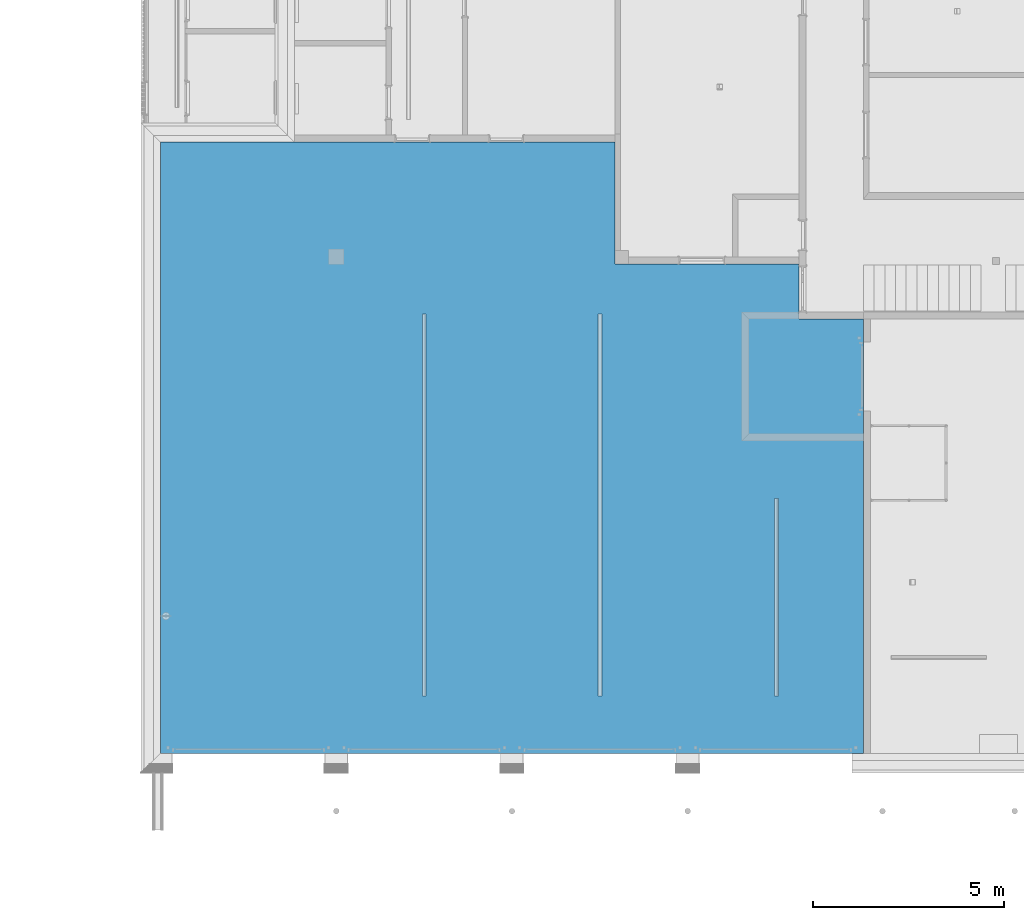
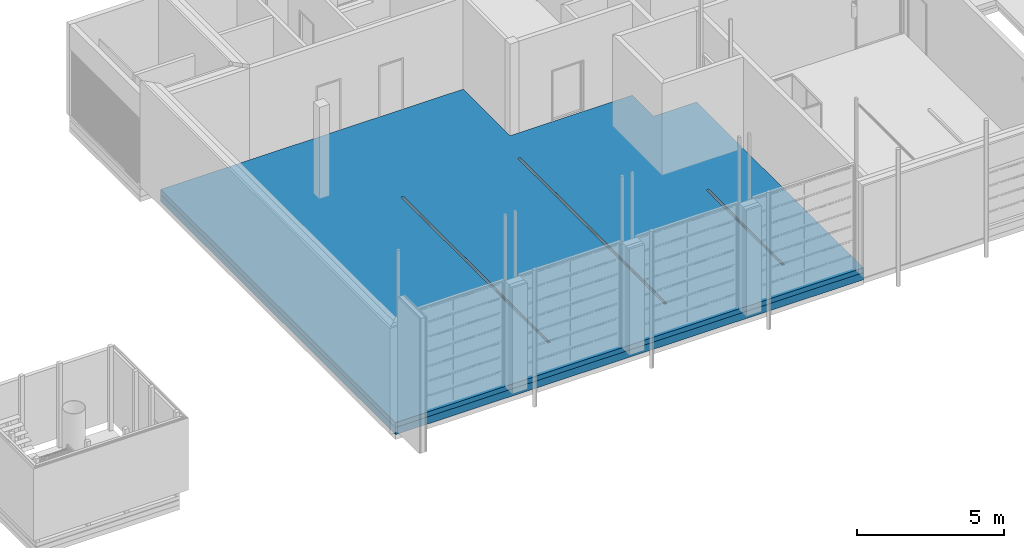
# One storey, part 49 of 112: 2 building element parts, 1 element without a shape of its own.
"""IFC2X3 building model written with IfcOpenShell, lengths in millimetres."""

from ifc_helpers import new_model, entity, si_unit, converted_unit, derived_unit, money_unit, direction, frame, origin_with_axes, place, context, subcontext, project, spatial, polyline, outline, extrude, boolean, faceted_brep, material, type_object, element, aggregate, save


model = new_model("IFC2X3")

# Units and contexts
model_context = context("Model", 3, precision=0.01, world=origin_with_axes(), true_north=direction((0.0, 1.0)))
body_context = subcontext(model_context, "Body", "Model", "MODEL_VIEW")
ifc_project = project(units=[si_unit("LENGTHUNIT", "METRE", prefix="MILLI"), si_unit("AREAUNIT", "SQUARE_METRE"), si_unit("VOLUMEUNIT", "CUBIC_METRE"), converted_unit("PLANEANGLEUNIT", "DEGREE", entity("IfcPlaneAngleMeasure", 0.0174532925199), si_unit("PLANEANGLEUNIT", "RADIAN"), dimensions=[0, 0, 0, 0, 0, 0, 0]), si_unit("SOLIDANGLEUNIT", "STERADIAN"), money_unit("EUR"), converted_unit("TIMEUNIT", "Year", entity("IfcTimeMeasure", 31556926.0), si_unit("TIMEUNIT", "SECOND"), dimensions=[0, 0, 1, 0, 0, 0, 0]), si_unit("MASSUNIT", "GRAM", prefix="KILO"), si_unit("THERMODYNAMICTEMPERATUREUNIT", "DEGREE_CELSIUS"), si_unit("LUMINOUSINTENSITYUNIT", "LUMEN"), si_unit("ENERGYUNIT", "JOULE", prefix="MEGA"), derived_unit("THERMALCONDUCTANCEUNIT", [(si_unit("POWERUNIT", "WATT"), 1), (si_unit("LENGTHUNIT", "METRE"), -1), (si_unit("THERMODYNAMICTEMPERATUREUNIT", "KELVIN"), -1)]), derived_unit("SPECIFICHEATCAPACITYUNIT", [(si_unit("ENERGYUNIT", "JOULE"), 1), (si_unit("MASSUNIT", "GRAM", prefix="KILO"), -1), (si_unit("THERMODYNAMICTEMPERATUREUNIT", "KELVIN"), -1)]), derived_unit("MASSDENSITYUNIT", [(si_unit("MASSUNIT", "GRAM", prefix="KILO"), 1), (si_unit("VOLUMEUNIT", "CUBIC_METRE"), -1)])], contexts=[model_context])

# Site, building, storey
site_placement = place(None, origin_with_axes())
site = spatial("IfcSite", under=ifc_project, at=site_placement, Name="Politse- ja Piirivalveameti ning Päästeameti ühishoone", CompositionType="ELEMENT")
building_placement = place(site_placement, origin_with_axes())
building = spatial("IfcBuilding", under=site, at=building_placement, Name="Politse- ja Piirivalveameti ning Päästeameti ühishoone", CompositionType="ELEMENT")
storey_placement = place(building_placement, origin_with_axes())
storey = spatial("IfcBuildingStorey", under=building, at=storey_placement, Name="Esimene korrus", CompositionType="ELEMENT", Elevation=0.0)

# Slab, building element parts
slab_type = type_object("IfcSlabType", Name="PP-01_Põrand pinnasel - garaaz 700", PredefinedType="NOTDEFINED")
slab_placement = place(storey_placement, origin_with_axes())
slab = element("IfcSlab", 1, at=slab_placement, inside=storey, type_object=slab_type, Name="PP-01", PredefinedType="NOTDEFINED")
ifc_material_1 = material(Name="SOJ-02_Soojustus - Fiiber Kõva")
building_element_part_1_placement = place(slab_placement, origin_with_axes())
building_element_part_1 = element("IfcBuildingElementPart", 2, at=building_element_part_1_placement, material=ifc_material_1, Name="SOJ-02_Soojustus - Fiiber Kõva", context=body_context, shape_type="CSG", body=[
    boolean("DIFFERENCE", boolean("DIFFERENCE", boolean("DIFFERENCE", extrude(outline(polyline([(0.0, 0.0), (18400.0881112, 0.0), (18400.0881112, 11370.0198611), (16710.2858198, 11370.0198611), (16710.2858198, 12810.0198611), (11900.1981808, 12810.0198611), (11900.1982011, 16000.0244522), (0.0, 16000.0244522), (0.0, 0.0)])), frame((0.0, 0.0, -500.0), z_axis=(0.0, 0.0, 1.0), x_axis=(1.0, 0.0, 0.0)), (0.0, 0.0, 1.0), 300.0), faceted_brep([(6854.91421387, 1500.0, 0.0), (6954.91421387, 1500.0, 0.0), (6954.91415426, 11500.0, 0.0), (6854.91421387, 11500.0, 0.0), (6854.91421387, 1500.0, -100.0), (6954.91421387, 1500.0, -100.0), (6954.91415426, 11500.0, -100.0), (6854.91421387, 11500.0, -100.0), (6859.91421387, 11495.0, -100.0), (6859.91421387, 6501.0, -100.0), (6859.91421387, 6499.0, -100.0), (6859.91415426, 1504.9999404, -100.0), (6880.16421387, 1505.0, -100.0), (6882.16418481, 1505.0, -100.0), (6903.91421387, 1505.0, -100.0), (6905.91421387, 1505.0, -100.0), (6927.66421387, 1505.0, -100.0), (6929.66421387, 1505.0, -100.0), (6949.91421387, 1504.9999404, -100.0), (6949.91421387, 6499.0, -100.0), (6949.91421387, 6501.0, -100.0), (6949.91421387, 11495.0, -100.0), (6929.66421387, 11495.0, -100.0), (6929.66421387, 6501.0, -100.0), (6929.66421387, 6499.0, -100.0), (6927.66421387, 6499.0, -100.0), (6927.66421387, 6501.0, -100.0), (6927.66421387, 11495.0, -100.0), (6905.91421387, 11495.0, -100.0), (6905.91421387, 6501.0, -100.0), (6905.91421387, 6499.0, -100.0), (6903.91421387, 6499.0, -100.0), (6903.91421387, 6501.0, -100.0), (6903.91421387, 11495.0, -100.0), (6882.16421387, 11495.0, -100.0), (6882.16421387, 6501.0, -100.0), (6882.16421387, 6499.0, -100.0), (6880.16421387, 6499.0, -100.0), (6880.16421387, 6501.0, -100.0), (6880.16421387, 11495.0, -100.0), (6859.91421387, 11495.0, -56.35), (6859.91421387, 6501.0, -56.35), (6859.91421387, 6499.0, -56.35), (6859.91415426, 1504.9999404, -56.35), (6880.16421387, 1505.0, -56.35), (6882.16418481, 1505.0, -56.35), (6903.91421387, 1505.0, -56.35), (6905.91421387, 1505.0, -56.35), (6927.66421387, 1505.0, -56.35), (6929.66421387, 1505.0, -56.35), (6949.91421387, 1504.9999404, -56.35), (6949.91421387, 6499.0, -56.35), (6949.91421387, 6501.0, -56.35), (6949.91421387, 11495.0, -56.35), (6929.66421387, 11495.0, -56.35), (6929.66421387, 6501.0, -56.35), (6929.66421387, 6499.0, -56.35), (6927.66421387, 6499.0, -56.35), (6927.66421387, 6501.0, -56.35), (6927.66421387, 11495.0, -56.35), (6905.91421387, 11495.0, -56.35), (6905.91421387, 6501.0, -56.35), (6905.91421387, 6499.0, -56.35), (6903.91421387, 6499.0, -56.35), (6903.91421387, 6501.0, -56.35), (6903.91421387, 11495.0, -56.35), (6882.16421387, 11495.0, -56.35), (6882.16421387, 6501.0, -56.35), (6882.16421387, 6499.0, -56.35), (6880.16421387, 6499.0, -56.35), (6880.16421387, 6501.0, -56.35), (6880.16421387, 11495.0, -56.35)], [[[0, 1, 2, 3]], [[1, 0, 4, 5]], [[2, 1, 5, 6]], [[3, 2, 6, 7]], [[0, 3, 7, 4]], [[7, 8, 9, 10, 11, 12, 13, 14, 15, 16, 17, 18, 19, 20, 21, 6, 5, 4]], [[8, 7, 6, 21, 22, 23, 24, 17, 16, 25, 26, 27, 28, 29, 30, 15, 14, 31, 32, 33, 34, 35, 36, 13, 12, 37, 38, 39]], [[8, 40, 41, 9]], [[10, 9, 38, 37]], [[10, 42, 43, 11]], [[11, 43, 44, 12]], [[13, 45, 46, 14]], [[15, 47, 48, 16]], [[17, 49, 50, 18]], [[18, 50, 51, 19]], [[24, 23, 20, 19]], [[20, 52, 53, 21]], [[54, 22, 21, 53]], [[22, 54, 55, 23]], [[49, 17, 24, 56]], [[16, 48, 57, 25]], [[25, 30, 29, 26]], [[26, 58, 59, 27]], [[60, 28, 27, 59]], [[28, 60, 61, 29]], [[47, 15, 30, 62]], [[14, 46, 63, 31]], [[36, 35, 32, 31]], [[32, 64, 65, 33]], [[66, 34, 33, 65]], [[34, 66, 67, 35]], [[45, 13, 36, 68]], [[69, 37, 12, 44]], [[38, 70, 71, 39]], [[40, 8, 39, 71]], [[41, 40, 71, 70]], [[9, 41, 70, 38]], [[42, 10, 37, 69]], [[43, 42, 69, 44]], [[46, 45, 68, 63]], [[48, 47, 62, 57]], [[50, 49, 56, 51]], [[56, 24, 19, 51]], [[23, 55, 52, 20]], [[55, 54, 53, 52]], [[62, 30, 25, 57]], [[29, 61, 58, 26]], [[61, 60, 59, 58]], [[68, 36, 31, 63]], [[35, 67, 64, 32]], [[64, 67, 66, 65]]])), faceted_brep([(11453.4204853, 1502.5, 0.0), (11553.4204853, 1502.5, 0.0), (11553.4204257, 11502.5, 0.0), (11453.4204853, 11502.5, 0.0), (11453.4204853, 1502.5, -100.0), (11553.4204853, 1502.5, -100.0), (11553.4204257, 11502.5, -100.0), (11453.4204853, 11502.5, -100.0), (11458.4204853, 11497.5, -100.0), (11458.4204853, 6503.5, -100.0), (11458.4204853, 6501.5, -100.0), (11458.4204257, 1507.4999404, -100.0), (11478.6704853, 1507.5, -100.0), (11480.6704563, 1507.5, -100.0), (11502.4204853, 1507.5, -100.0), (11504.4204853, 1507.5, -100.0), (11526.1704853, 1507.5, -100.0), (11528.1704853, 1507.5, -100.0), (11548.4204853, 1507.4999404, -100.0), (11548.4204853, 6501.5, -100.0), (11548.4204853, 6503.5, -100.0), (11548.4204853, 11497.5, -100.0), (11528.1704853, 11497.5, -100.0), (11528.1704853, 6503.5, -100.0), (11528.1704853, 6501.5, -100.0), (11526.1704853, 6501.5, -100.0), (11526.1704853, 6503.5, -100.0), (11526.1704853, 11497.5, -100.0), (11504.4204853, 11497.5, -100.0), (11504.4204853, 6503.5, -100.0), (11504.4204853, 6501.5, -100.0), (11502.4204853, 6501.5, -100.0), (11502.4204853, 6503.5, -100.0), (11502.4204853, 11497.5, -100.0), (11480.6704853, 11497.5, -100.0), (11480.6704853, 6503.5, -100.0), (11480.6704853, 6501.5, -100.0), (11478.6704853, 6501.5, -100.0), (11478.6704853, 6503.5, -100.0), (11478.6704853, 11497.5, -100.0), (11458.4204853, 11497.5, -56.35), (11458.4204853, 6503.5, -56.35), (11458.4204853, 6501.5, -56.35), (11458.4204257, 1507.4999404, -56.35), (11478.6704853, 1507.5, -56.35), (11480.6704563, 1507.5, -56.35), (11502.4204853, 1507.5, -56.35), (11504.4204853, 1507.5, -56.35), (11526.1704853, 1507.5, -56.35), (11528.1704853, 1507.5, -56.35), (11548.4204853, 1507.4999404, -56.35), (11548.4204853, 6501.5, -56.35), (11548.4204853, 6503.5, -56.35), (11548.4204853, 11497.5, -56.35), (11528.1704853, 11497.5, -56.35), (11528.1704853, 6503.5, -56.35), (11528.1704853, 6501.5, -56.35), (11526.1704853, 6501.5, -56.35), (11526.1704853, 6503.5, -56.35), (11526.1704853, 11497.5, -56.35), (11504.4204853, 11497.5, -56.35), (11504.4204853, 6503.5, -56.35), (11504.4204853, 6501.5, -56.35), (11502.4204853, 6501.5, -56.35), (11502.4204853, 6503.5, -56.35), (11502.4204853, 11497.5, -56.35), (11480.6704853, 11497.5, -56.35), (11480.6704853, 6503.5, -56.35), (11480.6704853, 6501.5, -56.35), (11478.6704853, 6501.5, -56.35), (11478.6704853, 6503.5, -56.35), (11478.6704853, 11497.5, -56.35)], [[[0, 1, 2, 3]], [[1, 0, 4, 5]], [[2, 1, 5, 6]], [[3, 2, 6, 7]], [[0, 3, 7, 4]], [[7, 8, 9, 10, 11, 12, 13, 14, 15, 16, 17, 18, 19, 20, 21, 6, 5, 4]], [[8, 7, 6, 21, 22, 23, 24, 17, 16, 25, 26, 27, 28, 29, 30, 15, 14, 31, 32, 33, 34, 35, 36, 13, 12, 37, 38, 39]], [[40, 41, 9, 8]], [[9, 38, 37, 10]], [[42, 43, 11, 10]], [[43, 44, 12, 11]], [[45, 46, 14, 13]], [[47, 48, 16, 15]], [[49, 50, 18, 17]], [[50, 51, 19, 18]], [[23, 20, 19, 24]], [[52, 53, 21, 20]], [[22, 21, 53, 54]], [[54, 55, 23, 22]], [[17, 24, 56, 49]], [[48, 57, 25, 16]], [[30, 29, 26, 25]], [[58, 59, 27, 26]], [[28, 27, 59, 60]], [[60, 61, 29, 28]], [[15, 30, 62, 47]], [[46, 63, 31, 14]], [[35, 32, 31, 36]], [[64, 65, 33, 32]], [[34, 33, 65, 66]], [[66, 67, 35, 34]], [[13, 36, 68, 45]], [[37, 12, 44, 69]], [[70, 71, 39, 38]], [[8, 39, 71, 40]], [[40, 71, 70, 41]], [[41, 70, 38, 9]], [[10, 37, 69, 42]], [[42, 69, 44, 43]], [[45, 68, 63, 46]], [[47, 62, 57, 48]], [[49, 56, 51, 50]], [[24, 19, 51, 56]], [[55, 52, 20, 23]], [[54, 53, 52, 55]], [[30, 25, 57, 62]], [[61, 58, 26, 29]], [[60, 59, 58, 61]], [[36, 31, 63, 68]], [[67, 64, 32, 35]], [[67, 66, 65, 64]]])), faceted_brep([(16070.5391714, 1502.5, 0.0), (16170.5391714, 1502.5, 0.0), (16170.5391714, 6677.51986111, 0.0), (16070.5391714, 6677.51986111, 0.0), (16070.5391714, 1502.5, -100.0), (16170.5391714, 1502.5, -100.0), (16170.5391714, 6677.51986111, -100.0), (16070.5391714, 6677.51986111, -100.0), (16075.5391714, 6672.51986111, -100.0), (16075.5391714, 4091.00993056, -100.0), (16075.5391714, 4089.00993056, -100.0), (16075.5391582, 1507.49998678, -100.0), (16095.7891714, 1507.5, -100.0), (16097.7891804, 1507.5, -100.0), (16119.5391714, 1507.5, -100.0), (16121.5391714, 1507.5, -100.0), (16143.2891714, 1507.5, -100.0), (16145.2891714, 1507.5, -100.0), (16165.5391714, 1507.49998678, -100.0), (16165.5391714, 4089.00993056, -100.0), (16165.5391714, 4091.00993056, -100.0), (16165.5391714, 6672.51986111, -100.0), (16145.2891714, 6672.51986111, -100.0), (16145.2891714, 4091.00993056, -100.0), (16145.2891714, 4089.00993056, -100.0), (16143.2891714, 4089.00993056, -100.0), (16143.2891714, 4091.00993056, -100.0), (16143.2891714, 6672.51986111, -100.0), (16121.5391714, 6672.51986111, -100.0), (16121.5391714, 4091.00993056, -100.0), (16121.5391714, 4089.00993056, -100.0), (16119.5391714, 4089.00993056, -100.0), (16119.5391714, 4091.00993056, -100.0), (16119.5391714, 6672.51986111, -100.0), (16097.7891714, 6672.51986111, -100.0), (16097.7891714, 4091.00993056, -100.0), (16097.7891714, 4089.00993056, -100.0), (16095.7891714, 4089.00993056, -100.0), (16095.7891714, 4091.00993056, -100.0), (16095.7891714, 6672.51986111, -100.0), (16075.5391714, 6672.51986111, -56.35), (16075.5391714, 4091.00993056, -56.35), (16075.5391714, 4089.00993056, -56.35), (16075.5391582, 1507.49998678, -56.35), (16095.7891714, 1507.5, -56.35), (16097.7891804, 1507.5, -56.35), (16119.5391714, 1507.5, -56.35), (16121.5391714, 1507.5, -56.35), (16143.2891714, 1507.5, -56.35), (16145.2891714, 1507.5, -56.35), (16165.5391714, 1507.49998678, -56.35), (16165.5391714, 4089.00993056, -56.35), (16165.5391714, 4091.00993056, -56.35), (16165.5391714, 6672.51986111, -56.35), (16145.2891714, 6672.51986111, -56.35), (16145.2891714, 4091.00993056, -56.35), (16145.2891714, 4089.00993056, -56.35), (16143.2891714, 4089.00993056, -56.35), (16143.2891714, 4091.00993056, -56.35), (16143.2891714, 6672.51986111, -56.35), (16121.5391714, 6672.51986111, -56.35), (16121.5391714, 4091.00993056, -56.35), (16121.5391714, 4089.00993056, -56.35), (16119.5391714, 4089.00993056, -56.35), (16119.5391714, 4091.00993056, -56.35), (16119.5391714, 6672.51986111, -56.35), (16097.7891714, 6672.51986111, -56.35), (16097.7891714, 4091.00993056, -56.35), (16097.7891714, 4089.00993056, -56.35), (16095.7891714, 4089.00993056, -56.35), (16095.7891714, 4091.00993056, -56.35), (16095.7891714, 6672.51986111, -56.35)], [[[0, 1, 2, 3]], [[1, 0, 4, 5]], [[2, 1, 5, 6]], [[3, 2, 6, 7]], [[0, 3, 7, 4]], [[7, 8, 9, 10, 11, 12, 13, 14, 15, 16, 17, 18, 19, 20, 21, 6, 5, 4]], [[8, 7, 6, 21, 22, 23, 24, 17, 16, 25, 26, 27, 28, 29, 30, 15, 14, 31, 32, 33, 34, 35, 36, 13, 12, 37, 38, 39]], [[9, 8, 40, 41]], [[37, 10, 9, 38]], [[11, 10, 42, 43]], [[12, 11, 43, 44]], [[14, 13, 45, 46]], [[16, 15, 47, 48]], [[18, 17, 49, 50]], [[19, 18, 50, 51]], [[19, 24, 23, 20]], [[21, 20, 52, 53]], [[53, 54, 22, 21]], [[23, 22, 54, 55]], [[56, 49, 17, 24]], [[25, 16, 48, 57]], [[26, 25, 30, 29]], [[27, 26, 58, 59]], [[59, 60, 28, 27]], [[29, 28, 60, 61]], [[62, 47, 15, 30]], [[31, 14, 46, 63]], [[31, 36, 35, 32]], [[33, 32, 64, 65]], [[65, 66, 34, 33]], [[35, 34, 66, 67]], [[68, 45, 13, 36]], [[44, 69, 37, 12]], [[39, 38, 70, 71]], [[71, 40, 8, 39]], [[70, 41, 40, 71]], [[38, 9, 41, 70]], [[69, 42, 10, 37]], [[44, 43, 42, 69]], [[63, 46, 45, 68]], [[57, 48, 47, 62]], [[51, 50, 49, 56]], [[51, 56, 24, 19]], [[20, 23, 55, 52]], [[52, 55, 54, 53]], [[57, 62, 30, 25]], [[26, 29, 61, 58]], [[58, 61, 60, 59]], [[63, 68, 36, 31]], [[32, 35, 67, 64]], [[65, 64, 67, 66]]])),
])
ifc_material_2 = material(Name="VKR-01_Betoon")
building_element_part_2_placement = place(slab_placement, origin_with_axes())
building_element_part_2 = element("IfcBuildingElementPart", 3, at=building_element_part_2_placement, material=ifc_material_2, Name="VKR-01_Betoon", context=body_context, shape_type="CSG", body=[
    boolean("DIFFERENCE", boolean("DIFFERENCE", boolean("DIFFERENCE", extrude(outline(polyline([(0.0, 0.0), (18400.0881112, 0.0), (18400.0881112, 11370.0198611), (16710.2858198, 11370.0198611), (16710.2858198, 12810.0198611), (11900.1981808, 12810.0198611), (11900.1982011, 16000.0244522), (0.0, 16000.0244522), (0.0, 0.0)])), frame((0.0, 0.0, -200.0), z_axis=(0.0, 0.0, 1.0), x_axis=(1.0, 0.0, 0.0)), (0.0, 0.0, 1.0), 200.0), faceted_brep([(6854.91421387, 1500.0, 0.0), (6954.91421387, 1500.0, 0.0), (6954.91415426, 11500.0, 0.0), (6854.91421387, 11500.0, 0.0), (6854.91421387, 1500.0, -100.0), (6954.91421387, 1500.0, -100.0), (6954.91415426, 11500.0, -100.0), (6854.91421387, 11500.0, -100.0), (6859.91421387, 11495.0, -100.0), (6859.91421387, 6501.0, -100.0), (6859.91421387, 6499.0, -100.0), (6859.91415426, 1504.9999404, -100.0), (6880.16421387, 1505.0, -100.0), (6882.16418481, 1505.0, -100.0), (6903.91421387, 1505.0, -100.0), (6905.91421387, 1505.0, -100.0), (6927.66421387, 1505.0, -100.0), (6929.66421387, 1505.0, -100.0), (6949.91421387, 1504.9999404, -100.0), (6949.91421387, 6499.0, -100.0), (6949.91421387, 6501.0, -100.0), (6949.91421387, 11495.0, -100.0), (6929.66421387, 11495.0, -100.0), (6929.66421387, 6501.0, -100.0), (6929.66421387, 6499.0, -100.0), (6927.66421387, 6499.0, -100.0), (6927.66421387, 6501.0, -100.0), (6927.66421387, 11495.0, -100.0), (6905.91421387, 11495.0, -100.0), (6905.91421387, 6501.0, -100.0), (6905.91421387, 6499.0, -100.0), (6903.91421387, 6499.0, -100.0), (6903.91421387, 6501.0, -100.0), (6903.91421387, 11495.0, -100.0), (6882.16421387, 11495.0, -100.0), (6882.16421387, 6501.0, -100.0), (6882.16421387, 6499.0, -100.0), (6880.16421387, 6499.0, -100.0), (6880.16421387, 6501.0, -100.0), (6880.16421387, 11495.0, -100.0), (6859.91421387, 11495.0, -56.35), (6859.91421387, 6501.0, -56.35), (6859.91421387, 6499.0, -56.35), (6859.91415426, 1504.9999404, -56.35), (6880.16421387, 1505.0, -56.35), (6882.16418481, 1505.0, -56.35), (6903.91421387, 1505.0, -56.35), (6905.91421387, 1505.0, -56.35), (6927.66421387, 1505.0, -56.35), (6929.66421387, 1505.0, -56.35), (6949.91421387, 1504.9999404, -56.35), (6949.91421387, 6499.0, -56.35), (6949.91421387, 6501.0, -56.35), (6949.91421387, 11495.0, -56.35), (6929.66421387, 11495.0, -56.35), (6929.66421387, 6501.0, -56.35), (6929.66421387, 6499.0, -56.35), (6927.66421387, 6499.0, -56.35), (6927.66421387, 6501.0, -56.35), (6927.66421387, 11495.0, -56.35), (6905.91421387, 11495.0, -56.35), (6905.91421387, 6501.0, -56.35), (6905.91421387, 6499.0, -56.35), (6903.91421387, 6499.0, -56.35), (6903.91421387, 6501.0, -56.35), (6903.91421387, 11495.0, -56.35), (6882.16421387, 11495.0, -56.35), (6882.16421387, 6501.0, -56.35), (6882.16421387, 6499.0, -56.35), (6880.16421387, 6499.0, -56.35), (6880.16421387, 6501.0, -56.35), (6880.16421387, 11495.0, -56.35)], [[[0, 1, 2, 3]], [[1, 0, 4, 5]], [[2, 1, 5, 6]], [[3, 2, 6, 7]], [[0, 3, 7, 4]], [[7, 8, 9, 10, 11, 12, 13, 14, 15, 16, 17, 18, 19, 20, 21, 6, 5, 4]], [[8, 7, 6, 21, 22, 23, 24, 17, 16, 25, 26, 27, 28, 29, 30, 15, 14, 31, 32, 33, 34, 35, 36, 13, 12, 37, 38, 39]], [[8, 40, 41, 9]], [[10, 9, 38, 37]], [[10, 42, 43, 11]], [[11, 43, 44, 12]], [[13, 45, 46, 14]], [[15, 47, 48, 16]], [[17, 49, 50, 18]], [[18, 50, 51, 19]], [[24, 23, 20, 19]], [[20, 52, 53, 21]], [[54, 22, 21, 53]], [[22, 54, 55, 23]], [[49, 17, 24, 56]], [[16, 48, 57, 25]], [[25, 30, 29, 26]], [[26, 58, 59, 27]], [[60, 28, 27, 59]], [[28, 60, 61, 29]], [[47, 15, 30, 62]], [[14, 46, 63, 31]], [[36, 35, 32, 31]], [[32, 64, 65, 33]], [[66, 34, 33, 65]], [[34, 66, 67, 35]], [[45, 13, 36, 68]], [[69, 37, 12, 44]], [[38, 70, 71, 39]], [[40, 8, 39, 71]], [[41, 40, 71, 70]], [[9, 41, 70, 38]], [[42, 10, 37, 69]], [[43, 42, 69, 44]], [[46, 45, 68, 63]], [[48, 47, 62, 57]], [[50, 49, 56, 51]], [[56, 24, 19, 51]], [[23, 55, 52, 20]], [[55, 54, 53, 52]], [[62, 30, 25, 57]], [[29, 61, 58, 26]], [[61, 60, 59, 58]], [[68, 36, 31, 63]], [[35, 67, 64, 32]], [[64, 67, 66, 65]]])), faceted_brep([(11453.4204853, 1502.5, 0.0), (11553.4204853, 1502.5, 0.0), (11553.4204257, 11502.5, 0.0), (11453.4204853, 11502.5, 0.0), (11453.4204853, 1502.5, -100.0), (11553.4204853, 1502.5, -100.0), (11553.4204257, 11502.5, -100.0), (11453.4204853, 11502.5, -100.0), (11458.4204853, 11497.5, -100.0), (11458.4204853, 6503.5, -100.0), (11458.4204853, 6501.5, -100.0), (11458.4204257, 1507.4999404, -100.0), (11478.6704853, 1507.5, -100.0), (11480.6704563, 1507.5, -100.0), (11502.4204853, 1507.5, -100.0), (11504.4204853, 1507.5, -100.0), (11526.1704853, 1507.5, -100.0), (11528.1704853, 1507.5, -100.0), (11548.4204853, 1507.4999404, -100.0), (11548.4204853, 6501.5, -100.0), (11548.4204853, 6503.5, -100.0), (11548.4204853, 11497.5, -100.0), (11528.1704853, 11497.5, -100.0), (11528.1704853, 6503.5, -100.0), (11528.1704853, 6501.5, -100.0), (11526.1704853, 6501.5, -100.0), (11526.1704853, 6503.5, -100.0), (11526.1704853, 11497.5, -100.0), (11504.4204853, 11497.5, -100.0), (11504.4204853, 6503.5, -100.0), (11504.4204853, 6501.5, -100.0), (11502.4204853, 6501.5, -100.0), (11502.4204853, 6503.5, -100.0), (11502.4204853, 11497.5, -100.0), (11480.6704853, 11497.5, -100.0), (11480.6704853, 6503.5, -100.0), (11480.6704853, 6501.5, -100.0), (11478.6704853, 6501.5, -100.0), (11478.6704853, 6503.5, -100.0), (11478.6704853, 11497.5, -100.0), (11458.4204853, 11497.5, -56.35), (11458.4204853, 6503.5, -56.35), (11458.4204853, 6501.5, -56.35), (11458.4204257, 1507.4999404, -56.35), (11478.6704853, 1507.5, -56.35), (11480.6704563, 1507.5, -56.35), (11502.4204853, 1507.5, -56.35), (11504.4204853, 1507.5, -56.35), (11526.1704853, 1507.5, -56.35), (11528.1704853, 1507.5, -56.35), (11548.4204853, 1507.4999404, -56.35), (11548.4204853, 6501.5, -56.35), (11548.4204853, 6503.5, -56.35), (11548.4204853, 11497.5, -56.35), (11528.1704853, 11497.5, -56.35), (11528.1704853, 6503.5, -56.35), (11528.1704853, 6501.5, -56.35), (11526.1704853, 6501.5, -56.35), (11526.1704853, 6503.5, -56.35), (11526.1704853, 11497.5, -56.35), (11504.4204853, 11497.5, -56.35), (11504.4204853, 6503.5, -56.35), (11504.4204853, 6501.5, -56.35), (11502.4204853, 6501.5, -56.35), (11502.4204853, 6503.5, -56.35), (11502.4204853, 11497.5, -56.35), (11480.6704853, 11497.5, -56.35), (11480.6704853, 6503.5, -56.35), (11480.6704853, 6501.5, -56.35), (11478.6704853, 6501.5, -56.35), (11478.6704853, 6503.5, -56.35), (11478.6704853, 11497.5, -56.35)], [[[0, 1, 2, 3]], [[1, 0, 4, 5]], [[2, 1, 5, 6]], [[3, 2, 6, 7]], [[0, 3, 7, 4]], [[7, 8, 9, 10, 11, 12, 13, 14, 15, 16, 17, 18, 19, 20, 21, 6, 5, 4]], [[8, 7, 6, 21, 22, 23, 24, 17, 16, 25, 26, 27, 28, 29, 30, 15, 14, 31, 32, 33, 34, 35, 36, 13, 12, 37, 38, 39]], [[40, 41, 9, 8]], [[9, 38, 37, 10]], [[42, 43, 11, 10]], [[43, 44, 12, 11]], [[45, 46, 14, 13]], [[47, 48, 16, 15]], [[49, 50, 18, 17]], [[50, 51, 19, 18]], [[23, 20, 19, 24]], [[52, 53, 21, 20]], [[22, 21, 53, 54]], [[54, 55, 23, 22]], [[17, 24, 56, 49]], [[48, 57, 25, 16]], [[30, 29, 26, 25]], [[58, 59, 27, 26]], [[28, 27, 59, 60]], [[60, 61, 29, 28]], [[15, 30, 62, 47]], [[46, 63, 31, 14]], [[35, 32, 31, 36]], [[64, 65, 33, 32]], [[34, 33, 65, 66]], [[66, 67, 35, 34]], [[13, 36, 68, 45]], [[37, 12, 44, 69]], [[70, 71, 39, 38]], [[8, 39, 71, 40]], [[40, 71, 70, 41]], [[41, 70, 38, 9]], [[10, 37, 69, 42]], [[42, 69, 44, 43]], [[45, 68, 63, 46]], [[47, 62, 57, 48]], [[49, 56, 51, 50]], [[24, 19, 51, 56]], [[55, 52, 20, 23]], [[54, 53, 52, 55]], [[30, 25, 57, 62]], [[61, 58, 26, 29]], [[60, 59, 58, 61]], [[36, 31, 63, 68]], [[67, 64, 32, 35]], [[67, 66, 65, 64]]])), faceted_brep([(16070.5391714, 1502.5, 0.0), (16170.5391714, 1502.5, 0.0), (16170.5391714, 6677.51986111, 0.0), (16070.5391714, 6677.51986111, 0.0), (16070.5391714, 1502.5, -100.0), (16170.5391714, 1502.5, -100.0), (16170.5391714, 6677.51986111, -100.0), (16070.5391714, 6677.51986111, -100.0), (16075.5391714, 6672.51986111, -100.0), (16075.5391714, 4091.00993056, -100.0), (16075.5391714, 4089.00993056, -100.0), (16075.5391582, 1507.49998678, -100.0), (16095.7891714, 1507.5, -100.0), (16097.7891804, 1507.5, -100.0), (16119.5391714, 1507.5, -100.0), (16121.5391714, 1507.5, -100.0), (16143.2891714, 1507.5, -100.0), (16145.2891714, 1507.5, -100.0), (16165.5391714, 1507.49998678, -100.0), (16165.5391714, 4089.00993056, -100.0), (16165.5391714, 4091.00993056, -100.0), (16165.5391714, 6672.51986111, -100.0), (16145.2891714, 6672.51986111, -100.0), (16145.2891714, 4091.00993056, -100.0), (16145.2891714, 4089.00993056, -100.0), (16143.2891714, 4089.00993056, -100.0), (16143.2891714, 4091.00993056, -100.0), (16143.2891714, 6672.51986111, -100.0), (16121.5391714, 6672.51986111, -100.0), (16121.5391714, 4091.00993056, -100.0), (16121.5391714, 4089.00993056, -100.0), (16119.5391714, 4089.00993056, -100.0), (16119.5391714, 4091.00993056, -100.0), (16119.5391714, 6672.51986111, -100.0), (16097.7891714, 6672.51986111, -100.0), (16097.7891714, 4091.00993056, -100.0), (16097.7891714, 4089.00993056, -100.0), (16095.7891714, 4089.00993056, -100.0), (16095.7891714, 4091.00993056, -100.0), (16095.7891714, 6672.51986111, -100.0), (16075.5391714, 6672.51986111, -56.35), (16075.5391714, 4091.00993056, -56.35), (16075.5391714, 4089.00993056, -56.35), (16075.5391582, 1507.49998678, -56.35), (16095.7891714, 1507.5, -56.35), (16097.7891804, 1507.5, -56.35), (16119.5391714, 1507.5, -56.35), (16121.5391714, 1507.5, -56.35), (16143.2891714, 1507.5, -56.35), (16145.2891714, 1507.5, -56.35), (16165.5391714, 1507.49998678, -56.35), (16165.5391714, 4089.00993056, -56.35), (16165.5391714, 4091.00993056, -56.35), (16165.5391714, 6672.51986111, -56.35), (16145.2891714, 6672.51986111, -56.35), (16145.2891714, 4091.00993056, -56.35), (16145.2891714, 4089.00993056, -56.35), (16143.2891714, 4089.00993056, -56.35), (16143.2891714, 4091.00993056, -56.35), (16143.2891714, 6672.51986111, -56.35), (16121.5391714, 6672.51986111, -56.35), (16121.5391714, 4091.00993056, -56.35), (16121.5391714, 4089.00993056, -56.35), (16119.5391714, 4089.00993056, -56.35), (16119.5391714, 4091.00993056, -56.35), (16119.5391714, 6672.51986111, -56.35), (16097.7891714, 6672.51986111, -56.35), (16097.7891714, 4091.00993056, -56.35), (16097.7891714, 4089.00993056, -56.35), (16095.7891714, 4089.00993056, -56.35), (16095.7891714, 4091.00993056, -56.35), (16095.7891714, 6672.51986111, -56.35)], [[[0, 1, 2, 3]], [[1, 0, 4, 5]], [[2, 1, 5, 6]], [[3, 2, 6, 7]], [[0, 3, 7, 4]], [[7, 8, 9, 10, 11, 12, 13, 14, 15, 16, 17, 18, 19, 20, 21, 6, 5, 4]], [[8, 7, 6, 21, 22, 23, 24, 17, 16, 25, 26, 27, 28, 29, 30, 15, 14, 31, 32, 33, 34, 35, 36, 13, 12, 37, 38, 39]], [[9, 8, 40, 41]], [[37, 10, 9, 38]], [[11, 10, 42, 43]], [[12, 11, 43, 44]], [[14, 13, 45, 46]], [[16, 15, 47, 48]], [[18, 17, 49, 50]], [[19, 18, 50, 51]], [[19, 24, 23, 20]], [[21, 20, 52, 53]], [[53, 54, 22, 21]], [[23, 22, 54, 55]], [[56, 49, 17, 24]], [[25, 16, 48, 57]], [[26, 25, 30, 29]], [[27, 26, 58, 59]], [[59, 60, 28, 27]], [[29, 28, 60, 61]], [[62, 47, 15, 30]], [[31, 14, 46, 63]], [[31, 36, 35, 32]], [[33, 32, 64, 65]], [[65, 66, 34, 33]], [[35, 34, 66, 67]], [[68, 45, 13, 36]], [[44, 69, 37, 12]], [[39, 38, 70, 71]], [[71, 40, 8, 39]], [[70, 41, 40, 71]], [[38, 9, 41, 70]], [[69, 42, 10, 37]], [[44, 43, 42, 69]], [[63, 46, 45, 68]], [[57, 48, 47, 62]], [[51, 50, 49, 56]], [[51, 56, 24, 19]], [[20, 23, 55, 52]], [[52, 55, 54, 53]], [[57, 62, 30, 25]], [[26, 29, 61, 58]], [[58, 61, 60, 59]], [[63, 68, 36, 31]], [[32, 35, 67, 64]], [[65, 64, 67, 66]]])),
])
aggregate(slab, [building_element_part_1, building_element_part_2])

save(model, "model.ifc")
